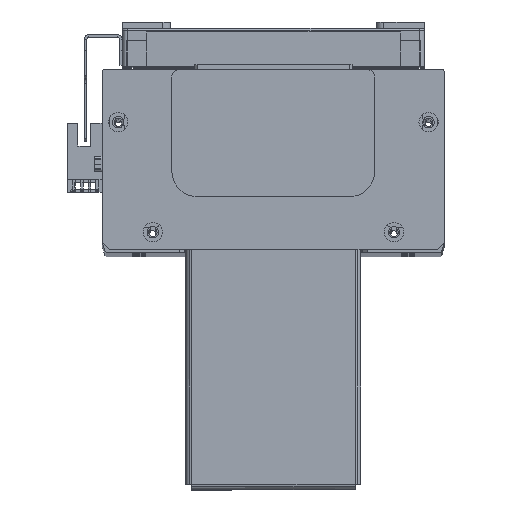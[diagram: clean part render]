
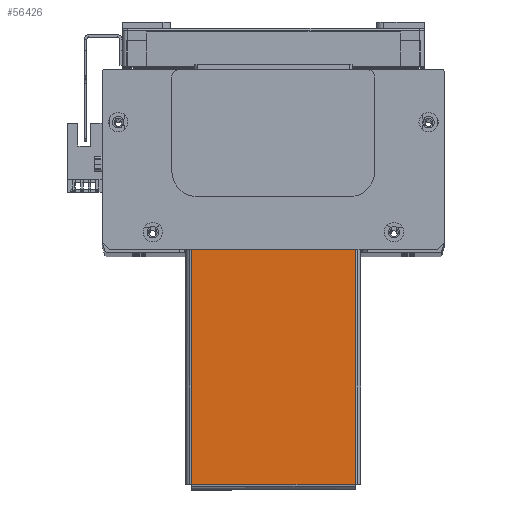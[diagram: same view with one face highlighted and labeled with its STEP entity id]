
A CAD part, top view. The second image highlights one B-rep face of the part: STEP entity #56426.
In plain terms, the highlighted planar face has unit normal (0, 0, 1) as drawn and (0, -1, 0) by its records, which use the part's own axes.
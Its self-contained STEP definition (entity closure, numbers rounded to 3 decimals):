
#12854 = FACE_OUTER_BOUND ( 'NONE', #37282, .T. ) ;
#15472 = CARTESIAN_POINT ( 'NONE',  ( -94.763, -1.5, 32.263 ) ) ;
#23350 = EDGE_CURVE ( 'NONE', #53186, #53090, #62930, .T. ) ;
#23365 = EDGE_CURVE ( 'NONE', #53090, #53098, #62978, .T. ) ;
#23384 = EDGE_CURVE ( 'NONE', #53073, #53098, #63032, .T. ) ;
#23397 = EDGE_CURVE ( 'NONE', #53073, #53186, #63037, .T. ) ;
#26753 = DIRECTION ( 'NONE',  ( 0., 0., 1. ) ) ;
#26771 = PLANE ( 'NONE',  #60274 ) ;
#26773 = CARTESIAN_POINT ( 'NONE',  ( 0., -1.5, 0. ) ) ;
#26774 = DIRECTION ( 'NONE',  ( 0., 1., 0. ) ) ;
#36767 = ORIENTED_EDGE ( 'NONE', *, *, #23365, .T. ) ;
#36769 = ORIENTED_EDGE ( 'NONE', *, *, #23397, .T. ) ;
#36775 = ORIENTED_EDGE ( 'NONE', *, *, #23384, .F. ) ;
#36830 = ORIENTED_EDGE ( 'NONE', *, *, #23350, .T. ) ;
#37282 = EDGE_LOOP ( 'NONE', ( #36767, #36775, #36769, #36830 ) ) ;
#41057 = DIRECTION ( 'NONE',  ( 0., 0., -1. ) ) ;
#41076 = CARTESIAN_POINT ( 'NONE',  ( 94.793, -1.5, 32.263 ) ) ;
#41114 = CARTESIAN_POINT ( 'NONE',  ( -2., -1.5, 34.5 ) ) ;
#41175 = DIRECTION ( 'NONE',  ( -1., 0., 0. ) ) ;
#44076 = CARTESIAN_POINT ( 'NONE',  ( -94.763, -1.5, -32.263 ) ) ;
#44086 = CARTESIAN_POINT ( 'NONE',  ( -2., -1.5, -32.263 ) ) ;
#44142 = CARTESIAN_POINT ( 'NONE',  ( -2., -1.5, 32.263 ) ) ;
#53073 = VERTEX_POINT ( 'NONE', #44142 ) ;
#53090 = VERTEX_POINT ( 'NONE', #44076 ) ;
#53098 = VERTEX_POINT ( 'NONE', #44086 ) ;
#53186 = VERTEX_POINT ( 'NONE', #15472 ) ;
#56426 = ADVANCED_FACE ( 'NONE', ( #12854 ), #26771, .F. ) ;
#58088 = DIRECTION ( 'NONE',  ( 1., 0., 0. ) ) ;
#59085 = CARTESIAN_POINT ( 'NONE',  ( -94.763, -1.5, 32.293 ) ) ;
#59092 = DIRECTION ( 'NONE',  ( 0., 0., -1. ) ) ;
#59102 = CARTESIAN_POINT ( 'NONE',  ( -94.793, -1.5, -32.263 ) ) ;
#60274 = AXIS2_PLACEMENT_3D ( 'NONE', #26773, #26774, #26753 ) ;
#62930 = LINE ( 'NONE', #59085, #62966 ) ;
#62949 = VECTOR ( 'NONE', #58088, 1000. ) ;
#62966 = VECTOR ( 'NONE', #59092, 1000. ) ;
#62978 = LINE ( 'NONE', #59102, #62949 ) ;
#63031 = VECTOR ( 'NONE', #41175, 1000. ) ;
#63032 = LINE ( 'NONE', #41114, #63048 ) ;
#63037 = LINE ( 'NONE', #41076, #63031 ) ;
#63048 = VECTOR ( 'NONE', #41057, 1000. ) ;
